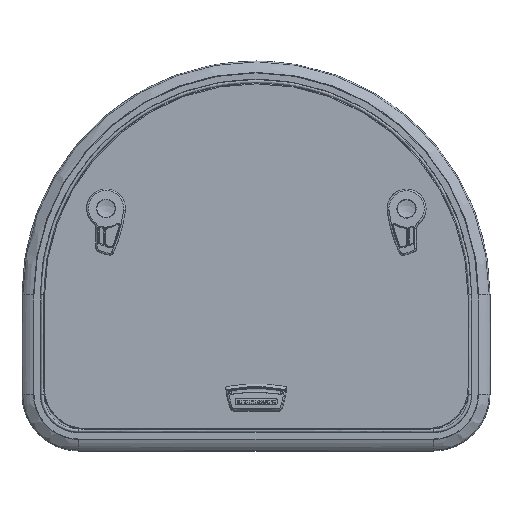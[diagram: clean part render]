
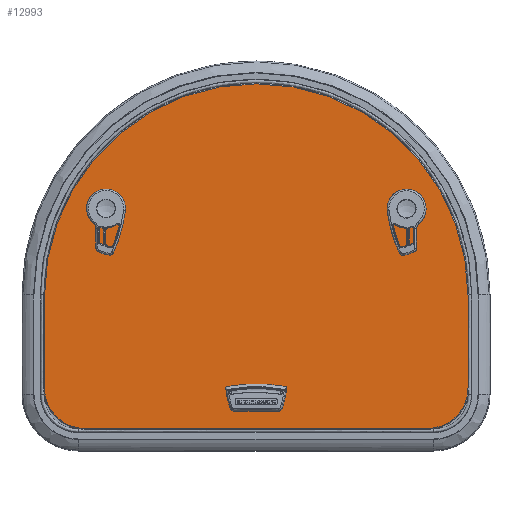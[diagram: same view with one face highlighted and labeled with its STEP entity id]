
A CAD part, top view. The second image highlights one B-rep face of the part: STEP entity #12993.
In plain terms, the highlighted planar face has unit normal (0, 0, 1) as drawn and (0, 1, 0) by its records, which use the part's own axes.
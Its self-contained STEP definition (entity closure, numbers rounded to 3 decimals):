
#12176=CARTESIAN_POINT('',(219.5,8.,118.5));
#12177=DIRECTION('',(0.,1.,0.));
#12178=DIRECTION('',(0.,0.,1.));
#12179=AXIS2_PLACEMENT_3D('',#12176,#12177,#12178);
#12181=DIRECTION('',(1.,0.,0.));
#12182=VECTOR('',#12181,439.);
#12183=CARTESIAN_POINT('',(-219.5,8.,170.5));
#12184=LINE('',#12183,#12182);
#12185=CARTESIAN_POINT('',(-219.5,8.,118.5));
#12186=DIRECTION('',(0.,1.,0.));
#12187=DIRECTION('',(-1.,0.,0.));
#12188=AXIS2_PLACEMENT_3D('',#12185,#12186,#12187);
#12190=DIRECTION('',(0.,0.,1.));
#12191=VECTOR('',#12190,118.5);
#12192=CARTESIAN_POINT('',(-271.5,8.,0.));
#12193=LINE('',#12192,#12191);
#12194=CARTESIAN_POINT('',(0.,8.,0.));
#12195=DIRECTION('',(0.,1.,0.));
#12196=DIRECTION('',(1.,0.,0.));
#12197=AXIS2_PLACEMENT_3D('',#12194,#12195,#12196);
#12199=DIRECTION('',(0.,0.,-1.));
#12200=VECTOR('',#12199,118.5);
#12201=CARTESIAN_POINT('',(271.5,8.,118.5));
#12202=LINE('',#12201,#12200);
#12203=CARTESIAN_POINT('',(-21.55,8.,135.));
#12204=DIRECTION('',(0.,1.,0.));
#12205=DIRECTION('',(0.,0.,-1.));
#12206=AXIS2_PLACEMENT_3D('',#12203,#12204,#12205);
#12208=DIRECTION('',(1.,0.,0.));
#12209=VECTOR('',#12208,43.1);
#12210=CARTESIAN_POINT('',(-21.55,8.,140.5));
#12211=LINE('',#12210,#12209);
#12212=CARTESIAN_POINT('',(21.55,8.,135.));
#12213=DIRECTION('',(0.,1.,0.));
#12214=DIRECTION('',(0.,0.,1.));
#12215=AXIS2_PLACEMENT_3D('',#12212,#12213,#12214);
#12217=DIRECTION('',(-1.,0.,0.));
#12218=VECTOR('',#12217,43.1);
#12219=CARTESIAN_POINT('',(21.55,8.,129.5));
#12220=LINE('',#12219,#12218);
#12221=DIRECTION('',(-0.866,0.,-0.5));
#12222=VECTOR('',#12221,5.2);
#12223=CARTESIAN_POINT('',(199.992,8.,-118.697));
#12224=LINE('',#12223,#12222);
#12225=CARTESIAN_POINT('',(192.989,8.,-116.967));
#12226=DIRECTION('',(0.,1.,0.));
#12227=DIRECTION('',(0.5,0.,-0.866));
#12228=AXIS2_PLACEMENT_3D('',#12225,#12226,#12227);
#12230=DIRECTION('',(-0.5,0.,0.866));
#12231=VECTOR('',#12230,10.2);
#12232=CARTESIAN_POINT('',(188.659,8.,-119.467));
#12233=LINE('',#12232,#12231);
#12234=CARTESIAN_POINT('',(187.889,8.,-108.133));
#12235=DIRECTION('',(0.,1.,0.));
#12236=DIRECTION('',(-0.866,0.,-0.5));
#12237=AXIS2_PLACEMENT_3D('',#12234,#12235,#12236);
#12239=DIRECTION('',(0.866,0.,0.5));
#12240=VECTOR('',#12239,5.2);
#12241=CARTESIAN_POINT('',(185.389,8.,-103.803));
#12242=LINE('',#12241,#12240);
#12243=CARTESIAN_POINT('',(192.392,8.,-105.533));
#12244=DIRECTION('',(0.,1.,0.));
#12245=DIRECTION('',(-0.5,0.,0.866));
#12246=AXIS2_PLACEMENT_3D('',#12243,#12244,#12245);
#12248=DIRECTION('',(0.5,0.,-0.866));
#12249=VECTOR('',#12248,10.2);
#12250=CARTESIAN_POINT('',(196.722,8.,-103.033));
#12251=LINE('',#12250,#12249);
#12252=CARTESIAN_POINT('',(197.492,8.,-114.367));
#12253=DIRECTION('',(0.,1.,0.));
#12254=DIRECTION('',(0.866,0.,0.5));
#12255=AXIS2_PLACEMENT_3D('',#12252,#12253,#12254);
#12257=DIRECTION('',(0.866,0.,-0.5));
#12258=VECTOR('',#12257,5.2);
#12259=CARTESIAN_POINT('',(-199.992,8.,-118.697));
#12260=LINE('',#12259,#12258);
#12261=CARTESIAN_POINT('',(-197.492,8.,-114.367));
#12262=DIRECTION('',(0.,-1.,0.));
#12263=DIRECTION('',(-0.866,0.,0.5));
#12264=AXIS2_PLACEMENT_3D('',#12261,#12262,#12263);
#12266=DIRECTION('',(-0.5,0.,-0.866));
#12267=VECTOR('',#12266,10.2);
#12268=CARTESIAN_POINT('',(-196.722,8.,-103.033));
#12269=LINE('',#12268,#12267);
#12270=CARTESIAN_POINT('',(-192.392,8.,-105.533));
#12271=DIRECTION('',(0.,-1.,0.));
#12272=DIRECTION('',(0.5,0.,0.866));
#12273=AXIS2_PLACEMENT_3D('',#12270,#12271,#12272);
#12275=DIRECTION('',(-0.866,0.,0.5));
#12276=VECTOR('',#12275,5.2);
#12277=CARTESIAN_POINT('',(-185.389,8.,-103.803));
#12278=LINE('',#12277,#12276);
#12279=CARTESIAN_POINT('',(-187.889,8.,-108.133));
#12280=DIRECTION('',(0.,-1.,0.));
#12281=DIRECTION('',(0.866,0.,-0.5));
#12282=AXIS2_PLACEMENT_3D('',#12279,#12280,#12281);
#12284=DIRECTION('',(0.5,0.,0.866));
#12285=VECTOR('',#12284,10.2);
#12286=CARTESIAN_POINT('',(-188.659,8.,-119.467));
#12287=LINE('',#12286,#12285);
#12288=CARTESIAN_POINT('',(-192.989,8.,-116.967));
#12289=DIRECTION('',(0.,-1.,0.));
#12290=DIRECTION('',(-0.5,0.,-0.866));
#12291=AXIS2_PLACEMENT_3D('',#12288,#12289,#12290);
#12440=CARTESIAN_POINT('',(219.5,8.,170.5));
#12441=CARTESIAN_POINT('',(271.5,8.,118.5));
#12442=VERTEX_POINT('',#12440);
#12443=VERTEX_POINT('',#12441);
#12444=CARTESIAN_POINT('',(271.5,8.,0.));
#12445=VERTEX_POINT('',#12444);
#12446=CARTESIAN_POINT('',(-271.5,8.,0.));
#12447=VERTEX_POINT('',#12446);
#12448=CARTESIAN_POINT('',(-271.5,8.,118.5));
#12449=VERTEX_POINT('',#12448);
#12450=CARTESIAN_POINT('',(-219.5,8.,170.5));
#12451=VERTEX_POINT('',#12450);
#12472=CARTESIAN_POINT('',(-21.55,8.,129.5));
#12473=CARTESIAN_POINT('',(-21.55,8.,140.5));
#12474=VERTEX_POINT('',#12472);
#12475=VERTEX_POINT('',#12473);
#12476=CARTESIAN_POINT('',(21.55,8.,140.5));
#12477=VERTEX_POINT('',#12476);
#12478=CARTESIAN_POINT('',(21.55,8.,129.5));
#12479=VERTEX_POINT('',#12478);
#12496=CARTESIAN_POINT('',(199.992,8.,-118.697));
#12497=CARTESIAN_POINT('',(195.489,8.,-121.297));
#12498=VERTEX_POINT('',#12496);
#12499=VERTEX_POINT('',#12497);
#12500=CARTESIAN_POINT('',(188.659,8.,-119.467));
#12501=VERTEX_POINT('',#12500);
#12502=CARTESIAN_POINT('',(183.559,8.,-110.633));
#12503=VERTEX_POINT('',#12502);
#12504=CARTESIAN_POINT('',(185.389,8.,-103.803));
#12505=VERTEX_POINT('',#12504);
#12506=CARTESIAN_POINT('',(189.892,8.,-101.203));
#12507=VERTEX_POINT('',#12506);
#12508=CARTESIAN_POINT('',(196.722,8.,-103.033));
#12509=VERTEX_POINT('',#12508);
#12510=CARTESIAN_POINT('',(201.822,8.,-111.867));
#12511=VERTEX_POINT('',#12510);
#12528=CARTESIAN_POINT('',(-199.992,8.,-118.697));
#12529=CARTESIAN_POINT('',(-195.489,8.,-121.297));
#12530=VERTEX_POINT('',#12528);
#12531=VERTEX_POINT('',#12529);
#12532=CARTESIAN_POINT('',(-188.659,8.,-119.467));
#12533=VERTEX_POINT('',#12532);
#12534=CARTESIAN_POINT('',(-183.559,8.,-110.633));
#12535=VERTEX_POINT('',#12534);
#12536=CARTESIAN_POINT('',(-185.389,8.,-103.803));
#12537=VERTEX_POINT('',#12536);
#12538=CARTESIAN_POINT('',(-189.892,8.,-101.203));
#12539=VERTEX_POINT('',#12538);
#12540=CARTESIAN_POINT('',(-196.722,8.,-103.033));
#12541=VERTEX_POINT('',#12540);
#12542=CARTESIAN_POINT('',(-201.822,8.,-111.867));
#12543=VERTEX_POINT('',#12542);
#12929=CARTESIAN_POINT('',(0.,8.,0.));
#12930=DIRECTION('',(0.,1.,0.));
#12931=DIRECTION('',(1.,0.,0.));
#12932=AXIS2_PLACEMENT_3D('',#12929,#12930,#12931);
#12933=PLANE('',#12932);
#12935=ORIENTED_EDGE('',*,*,#12934,.F.);
#12937=ORIENTED_EDGE('',*,*,#12936,.F.);
#12939=ORIENTED_EDGE('',*,*,#12938,.F.);
#12940=ORIENTED_EDGE('',*,*,#12919,.F.);
#12942=ORIENTED_EDGE('',*,*,#12941,.F.);
#12944=ORIENTED_EDGE('',*,*,#12943,.F.);
#12945=EDGE_LOOP('',(#12935,#12937,#12939,#12940,#12942,#12944));
#12946=FACE_OUTER_BOUND('',#12945,.F.);
#12948=ORIENTED_EDGE('',*,*,#12947,.T.);
#12950=ORIENTED_EDGE('',*,*,#12949,.T.);
#12952=ORIENTED_EDGE('',*,*,#12951,.T.);
#12954=ORIENTED_EDGE('',*,*,#12953,.T.);
#12955=EDGE_LOOP('',(#12948,#12950,#12952,#12954));
#12956=FACE_BOUND('',#12955,.F.);
#12958=ORIENTED_EDGE('',*,*,#12957,.T.);
#12960=ORIENTED_EDGE('',*,*,#12959,.T.);
#12962=ORIENTED_EDGE('',*,*,#12961,.T.);
#12964=ORIENTED_EDGE('',*,*,#12963,.T.);
#12966=ORIENTED_EDGE('',*,*,#12965,.T.);
#12968=ORIENTED_EDGE('',*,*,#12967,.T.);
#12970=ORIENTED_EDGE('',*,*,#12969,.T.);
#12972=ORIENTED_EDGE('',*,*,#12971,.T.);
#12973=EDGE_LOOP('',(#12958,#12960,#12962,#12964,#12966,#12968,#12970,#12972));
#12974=FACE_BOUND('',#12973,.F.);
#12976=ORIENTED_EDGE('',*,*,#12975,.F.);
#12978=ORIENTED_EDGE('',*,*,#12977,.F.);
#12980=ORIENTED_EDGE('',*,*,#12979,.F.);
#12982=ORIENTED_EDGE('',*,*,#12981,.F.);
#12984=ORIENTED_EDGE('',*,*,#12983,.F.);
#12986=ORIENTED_EDGE('',*,*,#12985,.F.);
#12988=ORIENTED_EDGE('',*,*,#12987,.F.);
#12990=ORIENTED_EDGE('',*,*,#12989,.F.);
#12991=EDGE_LOOP('',(#12976,#12978,#12980,#12982,#12984,#12986,#12988,#12990));
#12992=FACE_BOUND('',#12991,.F.);
#12993=ADVANCED_FACE('',(#12946,#12956,#12974,#12992),#12933,.T.);
#12180=CIRCLE('',#12179,52.);
#12189=CIRCLE('',#12188,52.);
#12198=CIRCLE('',#12197,271.5);
#12207=CIRCLE('',#12206,5.5);
#12216=CIRCLE('',#12215,5.5);
#12229=CIRCLE('',#12228,5.);
#12238=CIRCLE('',#12237,5.);
#12247=CIRCLE('',#12246,5.);
#12256=CIRCLE('',#12255,5.);
#12265=CIRCLE('',#12264,5.);
#12274=CIRCLE('',#12273,5.);
#12283=CIRCLE('',#12282,5.);
#12292=CIRCLE('',#12291,5.);
#12919=EDGE_CURVE('',#12447,#12449,#12193,.T.);
#12934=EDGE_CURVE('',#12442,#12443,#12180,.T.);
#12936=EDGE_CURVE('',#12451,#12442,#12184,.T.);
#12938=EDGE_CURVE('',#12449,#12451,#12189,.T.);
#12941=EDGE_CURVE('',#12445,#12447,#12198,.T.);
#12943=EDGE_CURVE('',#12443,#12445,#12202,.T.);
#12947=EDGE_CURVE('',#12474,#12475,#12207,.T.);
#12949=EDGE_CURVE('',#12475,#12477,#12211,.T.);
#12951=EDGE_CURVE('',#12477,#12479,#12216,.T.);
#12953=EDGE_CURVE('',#12479,#12474,#12220,.T.);
#12957=EDGE_CURVE('',#12498,#12499,#12224,.T.);
#12959=EDGE_CURVE('',#12499,#12501,#12229,.T.);
#12961=EDGE_CURVE('',#12501,#12503,#12233,.T.);
#12963=EDGE_CURVE('',#12503,#12505,#12238,.T.);
#12965=EDGE_CURVE('',#12505,#12507,#12242,.T.);
#12967=EDGE_CURVE('',#12507,#12509,#12247,.T.);
#12969=EDGE_CURVE('',#12509,#12511,#12251,.T.);
#12971=EDGE_CURVE('',#12511,#12498,#12256,.T.);
#12975=EDGE_CURVE('',#12530,#12531,#12260,.T.);
#12977=EDGE_CURVE('',#12543,#12530,#12265,.T.);
#12979=EDGE_CURVE('',#12541,#12543,#12269,.T.);
#12981=EDGE_CURVE('',#12539,#12541,#12274,.T.);
#12983=EDGE_CURVE('',#12537,#12539,#12278,.T.);
#12985=EDGE_CURVE('',#12535,#12537,#12283,.T.);
#12987=EDGE_CURVE('',#12533,#12535,#12287,.T.);
#12989=EDGE_CURVE('',#12531,#12533,#12292,.T.);
